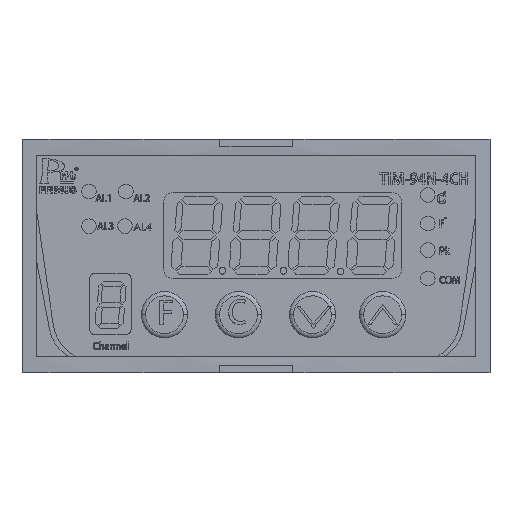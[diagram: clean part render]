
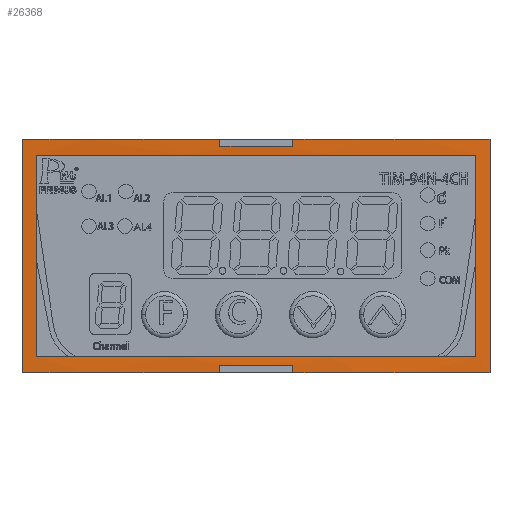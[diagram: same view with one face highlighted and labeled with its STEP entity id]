
A CAD part, top view. The second image highlights one B-rep face of the part: STEP entity #26368.
In plain terms, the highlighted cylindrical face has radius 866.83 mm (diameter 1733.66 mm), a partial arc.
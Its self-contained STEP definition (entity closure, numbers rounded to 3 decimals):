
#191 = CARTESIAN_POINT ( 'NONE',  ( -34.692, -10.75, -812.217 ) ) ;
#719 = CARTESIAN_POINT ( 'NONE',  ( -27.192, 34.25, 54.581 ) ) ;
#783 = CARTESIAN_POINT ( 'NONE',  ( -34.692, -8.95, -812.217 ) ) ;
#2130 = AXIS2_PLACEMENT_3D ( 'NONE', #69240, #106363, #16225 ) ;
#2340 = ORIENTED_EDGE ( 'NONE', *, *, #64316, .T. ) ;
#5343 = ORIENTED_EDGE ( 'NONE', *, *, #68003, .T. ) ;
#6052 = VERTEX_POINT ( 'NONE', #42754 ) ;
#6489 = EDGE_CURVE ( 'NONE', #101040, #74386, #31495, .T. ) ;
#6908 = ORIENTED_EDGE ( 'NONE', *, *, #101154, .F. ) ;
#7425 = CARTESIAN_POINT ( 'NONE',  ( -34.692, 34.25, -812.217 ) ) ;
#7823 = LINE ( 'NONE', #719, #52990 ) ;
#8808 = ORIENTED_EDGE ( 'NONE', *, *, #6489, .F. ) ;
#9316 = CARTESIAN_POINT ( 'NONE',  ( -27.192, -10.75, 54.581 ) ) ;
#10663 = AXIS2_PLACEMENT_3D ( 'NONE', #35490, #98591, #54357 ) ;
#11056 = LINE ( 'NONE', #9316, #97247 ) ;
#11096 = CIRCLE ( 'NONE', #37367, 866.83 ) ;
#13413 = DIRECTION ( 'NONE',  ( 0., -1., 0. ) ) ;
#13463 = DIRECTION ( 'NONE',  ( -1., 0., 0. ) ) ;
#14193 = AXIS2_PLACEMENT_3D ( 'NONE', #7425, #15654, #43297 ) ;
#14800 = ORIENTED_EDGE ( 'NONE', *, *, #26505, .T. ) ;
#15544 = DIRECTION ( 'NONE',  ( 0., -1., 0. ) ) ;
#15654 = DIRECTION ( 'NONE',  ( 0., -1., 0. ) ) ;
#16225 = DIRECTION ( 'NONE',  ( -1., 0., 0. ) ) ;
#17068 = VERTEX_POINT ( 'NONE', #24836 ) ;
#18672 = CARTESIAN_POINT ( 'NONE',  ( -79.792, -8.95, 53.439 ) ) ;
#18867 = ORIENTED_EDGE ( 'NONE', *, *, #84110, .F. ) ;
#21660 = LINE ( 'NONE', #22815, #78717 ) ;
#22815 = CARTESIAN_POINT ( 'NONE',  ( 10.408, -12.25, 53.439 ) ) ;
#22992 = VERTEX_POINT ( 'NONE', #97319 ) ;
#24041 = VERTEX_POINT ( 'NONE', #40153 ) ;
#24836 = CARTESIAN_POINT ( 'NONE',  ( -27.192, 34.25, 54.581 ) ) ;
#26271 = AXIS2_PLACEMENT_3D ( 'NONE', #32251, #58225, #13463 ) ;
#26368 = ADVANCED_FACE ( 'NONE', ( #113761, #33016 ), #60148, .T. ) ;
#26505 = EDGE_CURVE ( 'NONE', #24041, #33756, #21660, .T. ) ;
#26706 = EDGE_LOOP ( 'NONE', ( #14800, #61834, #45041, #34440 ) ) ;
#26822 = VERTEX_POINT ( 'NONE', #70201 ) ;
#27309 = ORIENTED_EDGE ( 'NONE', *, *, #79824, .F. ) ;
#27743 = LINE ( 'NONE', #108475, #103487 ) ;
#28424 = CARTESIAN_POINT ( 'NONE',  ( -42.192, -10.75, 54.581 ) ) ;
#29651 = AXIS2_PLACEMENT_3D ( 'NONE', #191, #15544, #72062 ) ;
#31319 = CIRCLE ( 'NONE', #74569, 866.83 ) ;
#31495 = CIRCLE ( 'NONE', #29651, 866.83 ) ;
#32192 = CIRCLE ( 'NONE', #2130, 866.83 ) ;
#32251 = CARTESIAN_POINT ( 'NONE',  ( -34.692, -12.25, -812.217 ) ) ;
#33016 = FACE_OUTER_BOUND ( 'NONE', #97704, .T. ) ;
#33454 = CARTESIAN_POINT ( 'NONE',  ( 10.408, -8.95, 53.439 ) ) ;
#33756 = VERTEX_POINT ( 'NONE', #33454 ) ;
#34440 = ORIENTED_EDGE ( 'NONE', *, *, #93453, .T. ) ;
#35490 = CARTESIAN_POINT ( 'NONE',  ( -34.692, 35.75, -812.217 ) ) ;
#37037 = CARTESIAN_POINT ( 'NONE',  ( -34.692, 35.75, -812.217 ) ) ;
#37367 = AXIS2_PLACEMENT_3D ( 'NONE', #37037, #38165, #110077 ) ;
#37452 = CARTESIAN_POINT ( 'NONE',  ( -42.192, 34.25, 54.581 ) ) ;
#37728 = DIRECTION ( 'NONE',  ( 0., 1., 0. ) ) ;
#38165 = DIRECTION ( 'NONE',  ( 0., -1., 0. ) ) ;
#39729 = DIRECTION ( 'NONE',  ( 0., 1., 0. ) ) ;
#40153 = CARTESIAN_POINT ( 'NONE',  ( 10.408, 32.45, 53.439 ) ) ;
#40426 = AXIS2_PLACEMENT_3D ( 'NONE', #67501, #103477, #42692 ) ;
#42073 = ORIENTED_EDGE ( 'NONE', *, *, #107407, .T. ) ;
#42579 = VECTOR ( 'NONE', #92666, 1000. ) ;
#42692 = DIRECTION ( 'NONE',  ( -1., 0., 0. ) ) ;
#42754 = CARTESIAN_POINT ( 'NONE',  ( -27.192, 35.75, 54.581 ) ) ;
#43297 = DIRECTION ( 'NONE',  ( 1., 0., 0. ) ) ;
#45041 = ORIENTED_EDGE ( 'NONE', *, *, #80974, .T. ) ;
#45200 = DIRECTION ( 'NONE',  ( 0., -1., 0. ) ) ;
#46891 = CARTESIAN_POINT ( 'NONE',  ( 13.308, -12.25, 53.283 ) ) ;
#48654 = CARTESIAN_POINT ( 'NONE',  ( -27.192, -10.75, 54.581 ) ) ;
#50071 = VERTEX_POINT ( 'NONE', #99338 ) ;
#52990 = VECTOR ( 'NONE', #89127, 1000. ) ;
#54357 = DIRECTION ( 'NONE',  ( -1., 0., 0. ) ) ;
#55719 = DIRECTION ( 'NONE',  ( 0., 1., 0. ) ) ;
#58225 = DIRECTION ( 'NONE',  ( 0., -1., 0. ) ) ;
#59371 = EDGE_CURVE ( 'NONE', #86149, #50071, #64939, .T. ) ;
#60148 = CYLINDRICAL_SURFACE ( 'NONE', #71239, 866.83 ) ;
#60187 = VERTEX_POINT ( 'NONE', #82384 ) ;
#61834 = ORIENTED_EDGE ( 'NONE', *, *, #66221, .T. ) ;
#63075 = ORIENTED_EDGE ( 'NONE', *, *, #107762, .T. ) ;
#63978 = LINE ( 'NONE', #37452, #94953 ) ;
#64316 = EDGE_CURVE ( 'NONE', #76157, #107360, #63978, .T. ) ;
#64939 = LINE ( 'NONE', #74960, #42579 ) ;
#66221 = EDGE_CURVE ( 'NONE', #33756, #86197, #31319, .T. ) ;
#67139 = VECTOR ( 'NONE', #79374, 1000. ) ;
#67501 = CARTESIAN_POINT ( 'NONE',  ( -34.692, -12.25, -812.217 ) ) ;
#67645 = CIRCLE ( 'NONE', #26271, 866.83 ) ;
#68003 = EDGE_CURVE ( 'NONE', #50071, #6052, #11096, .T. ) ;
#68780 = LINE ( 'NONE', #105330, #67139 ) ;
#69240 = CARTESIAN_POINT ( 'NONE',  ( -34.692, 32.45, -812.217 ) ) ;
#70201 = CARTESIAN_POINT ( 'NONE',  ( -79.792, 32.45, 53.439 ) ) ;
#70217 = ORIENTED_EDGE ( 'NONE', *, *, #59371, .T. ) ;
#70837 = CIRCLE ( 'NONE', #10663, 866.83 ) ;
#71239 = AXIS2_PLACEMENT_3D ( 'NONE', #78412, #114363, #74707 ) ;
#72062 = DIRECTION ( 'NONE',  ( 1., 0., 0. ) ) ;
#74386 = VERTEX_POINT ( 'NONE', #28424 ) ;
#74398 = DIRECTION ( 'NONE',  ( 0., -1., 0. ) ) ;
#74569 = AXIS2_PLACEMENT_3D ( 'NONE', #783, #74398, #110926 ) ;
#74707 = DIRECTION ( 'NONE',  ( -1., 0., 0. ) ) ;
#74960 = CARTESIAN_POINT ( 'NONE',  ( 13.308, -12.25, 53.283 ) ) ;
#75116 = LINE ( 'NONE', #85698, #101333 ) ;
#75295 = VERTEX_POINT ( 'NONE', #87017 ) ;
#76157 = VERTEX_POINT ( 'NONE', #96610 ) ;
#78412 = CARTESIAN_POINT ( 'NONE',  ( -34.692, -12.25, -812.217 ) ) ;
#78717 = VECTOR ( 'NONE', #13413, 1000. ) ;
#79374 = DIRECTION ( 'NONE',  ( 0., -1., 0. ) ) ;
#79474 = EDGE_CURVE ( 'NONE', #107360, #22992, #70837, .T. ) ;
#79824 = EDGE_CURVE ( 'NONE', #74386, #75295, #68780, .T. ) ;
#80974 = EDGE_CURVE ( 'NONE', #86197, #26822, #75116, .T. ) ;
#82384 = CARTESIAN_POINT ( 'NONE',  ( -27.192, -12.25, 54.581 ) ) ;
#82634 = VERTEX_POINT ( 'NONE', #106757 ) ;
#84110 = EDGE_CURVE ( 'NONE', #82634, #22992, #27743, .T. ) ;
#85698 = CARTESIAN_POINT ( 'NONE',  ( -79.792, -12.25, 53.439 ) ) ;
#86149 = VERTEX_POINT ( 'NONE', #46891 ) ;
#86197 = VERTEX_POINT ( 'NONE', #18672 ) ;
#87017 = CARTESIAN_POINT ( 'NONE',  ( -42.192, -12.25, 54.581 ) ) ;
#88583 = ORIENTED_EDGE ( 'NONE', *, *, #112431, .F. ) ;
#89127 = DIRECTION ( 'NONE',  ( 0., 1., 0. ) ) ;
#89347 = ORIENTED_EDGE ( 'NONE', *, *, #93864, .F. ) ;
#92666 = DIRECTION ( 'NONE',  ( 0., 1., 0. ) ) ;
#93305 = CIRCLE ( 'NONE', #14193, 866.83 ) ;
#93453 = EDGE_CURVE ( 'NONE', #26822, #24041, #32192, .T. ) ;
#93864 = EDGE_CURVE ( 'NONE', #17068, #6052, #7823, .T. ) ;
#94953 = VECTOR ( 'NONE', #55719, 1000. ) ;
#96610 = CARTESIAN_POINT ( 'NONE',  ( -42.192, 34.25, 54.581 ) ) ;
#96949 = CIRCLE ( 'NONE', #40426, 866.83 ) ;
#97247 = VECTOR ( 'NONE', #45200, 1000. ) ;
#97319 = CARTESIAN_POINT ( 'NONE',  ( -82.692, 35.75, 53.283 ) ) ;
#97704 = EDGE_LOOP ( 'NONE', ( #5343, #89347, #63075, #2340, #103290, #18867, #88583, #27309, #8808, #42073, #6908, #70217 ) ) ;
#98591 = DIRECTION ( 'NONE',  ( 0., -1., 0. ) ) ;
#99338 = CARTESIAN_POINT ( 'NONE',  ( 13.308, 35.75, 53.283 ) ) ;
#101040 = VERTEX_POINT ( 'NONE', #48654 ) ;
#101154 = EDGE_CURVE ( 'NONE', #86149, #60187, #96949, .T. ) ;
#101333 = VECTOR ( 'NONE', #39729, 1000. ) ;
#103290 = ORIENTED_EDGE ( 'NONE', *, *, #79474, .T. ) ;
#103477 = DIRECTION ( 'NONE',  ( 0., -1., 0. ) ) ;
#103487 = VECTOR ( 'NONE', #37728, 1000. ) ;
#105330 = CARTESIAN_POINT ( 'NONE',  ( -42.192, -10.75, 54.581 ) ) ;
#105938 = CARTESIAN_POINT ( 'NONE',  ( -42.192, 35.75, 54.581 ) ) ;
#106363 = DIRECTION ( 'NONE',  ( 0., 1., 0. ) ) ;
#106757 = CARTESIAN_POINT ( 'NONE',  ( -82.692, -12.25, 53.283 ) ) ;
#107360 = VERTEX_POINT ( 'NONE', #105938 ) ;
#107407 = EDGE_CURVE ( 'NONE', #101040, #60187, #11056, .T. ) ;
#107762 = EDGE_CURVE ( 'NONE', #17068, #76157, #93305, .T. ) ;
#108475 = CARTESIAN_POINT ( 'NONE',  ( -82.692, -12.25, 53.283 ) ) ;
#110077 = DIRECTION ( 'NONE',  ( -1., 0., 0. ) ) ;
#110926 = DIRECTION ( 'NONE',  ( 1., 0., 0. ) ) ;
#112431 = EDGE_CURVE ( 'NONE', #75295, #82634, #67645, .T. ) ;
#113761 = FACE_BOUND ( 'NONE', #26706, .T. ) ;
#114363 = DIRECTION ( 'NONE',  ( 0., 1., 0. ) ) ;
